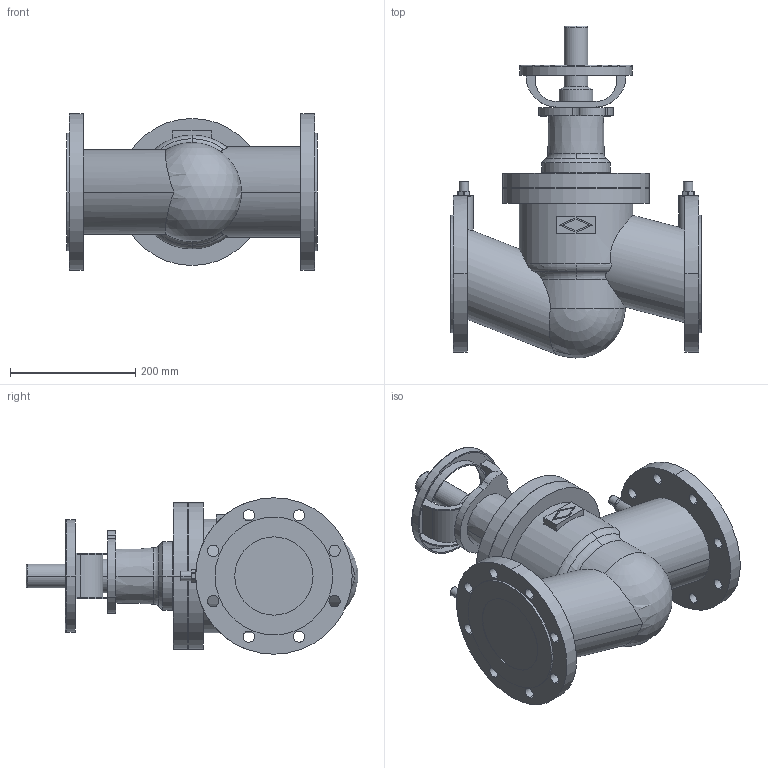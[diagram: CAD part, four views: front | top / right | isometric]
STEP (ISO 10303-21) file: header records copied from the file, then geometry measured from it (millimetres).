
FILE_DESCRIPTION( ( '' ), '1' );
FILE_NAME( 'F:/DE-SHS/TB/OR/04-Sonstiges/daten/files_3d/12020/c000000218.stp', '2015-04-28T06:36:46', ( '' ), ( '' ), ' ', ' ', ' ' );
FILE_SCHEMA( ( 'CONFIG_CONTROL_DESIGN' ) );
Length unit declared in the file: millimetre
Products named in the file (1): 1
Bounding box: 400 x 530.67 x 250 mm (x, y, z)
Volume: 13714809.7 mm3; surface area: 700182.4 mm2
Topology: 1 solids, 1 shells, 204 faces, 539 edges, 356 vertices
Faces by surface type: cylinder 111, plane 70, torus 16, cone 6, sphere 1
Entity records: 7250 total; most frequent: CARTESIAN_POINT 1882, DIRECTION 1176, ORIENTED_EDGE 1074, EDGE_CURVE 537, AXIS2_PLACEMENT_3D 466, VERTEX_POINT 356, EDGE_LOOP 261, CIRCLE 257
